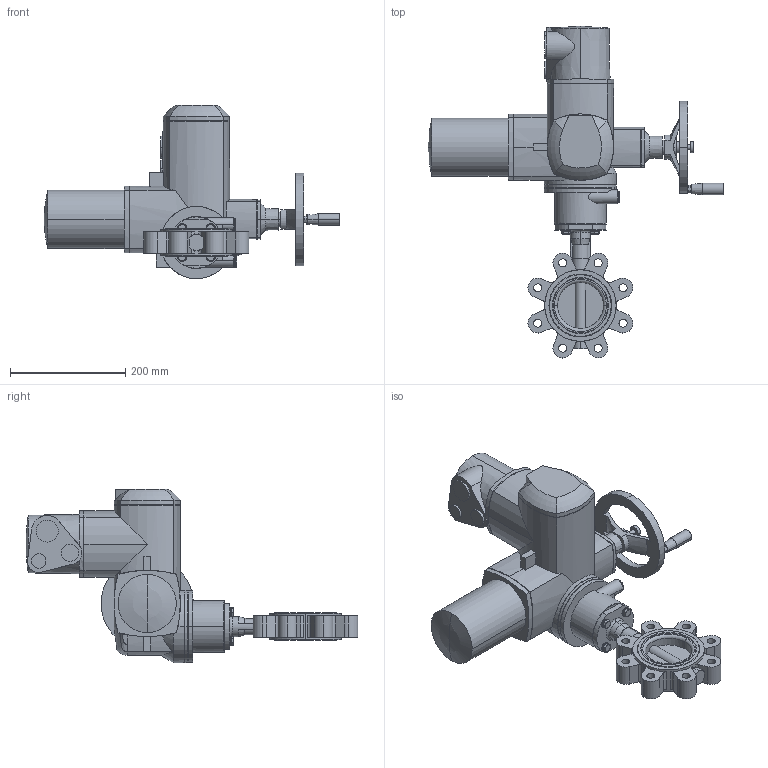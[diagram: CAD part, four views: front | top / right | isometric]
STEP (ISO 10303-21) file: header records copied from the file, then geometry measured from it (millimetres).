
FILE_DESCRIPTION (( 'STEP AP214' ), '1' );
FILE_NAME ('67547.step', '2020-10-23T13:46:32', ( '' ), ( '' ), 'SwSTEP 2.0', 'SolidWorks 2019', '' );
FILE_SCHEMA (( 'AUTOMOTIVE_DESIGN' ));
Length unit declared in the file: millimetre
Products named in the file (7): 67547; 54377_SQ05.2 F05_F07-VK11; 6kt-Schr DIN 933_M8x25; TL20-0080_M01; U-Scheibe DIN 125 A_M8; Gewindestift mit Kegelkuppe und In-6kt DIN 913 A4_Gewindestift mit In-6kt M5x10; SQ(R) 05.2_SQ 05.2 Drehstrommotor
Assembly tree (12 placements, depth 2):
  67547
    TL20-0080_M01
    U-Scheibe DIN 125 A_M8  x4
    6kt-Schr DIN 933_M8x25  x4
    SQ(R) 05.2_SQ 05.2 Drehstrommotor
    54377_SQ05.2 F05_F07-VK11
    Gewindestift mit Kegelkuppe und In-6kt DIN 913 A4_Gewindestift mit In-6kt M5x10
Bounding box: 512.7 x 575.41 x 300.3 mm (x, y, z)
Volume: 8684345.9 mm3; surface area: 501894.7 mm2
Topology: 12 solids, 12 shells, 755 faces, 1897 edges, 1205 vertices
Faces by surface type: plane 369, cylinder 250, cone 117, bspline 9, torus 6, sphere 4
Entity records: 28149 total; most frequent: CARTESIAN_POINT 7673, DIRECTION 3446, ORIENTED_EDGE 3372, EDGE_CURVE 1686, AXIS2_PLACEMENT_3D 1281, VERTEX_POINT 1083, LINE 884, VECTOR 884
